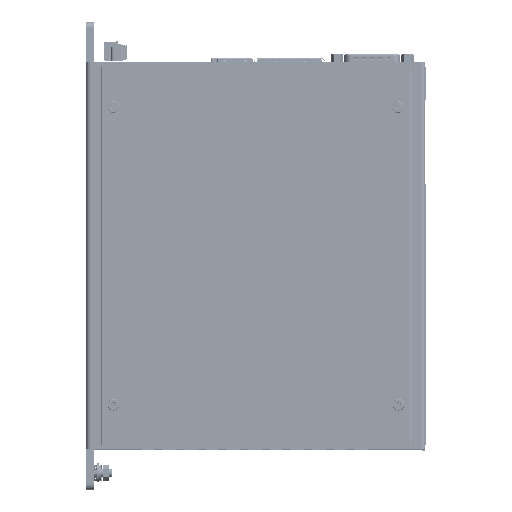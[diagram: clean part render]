
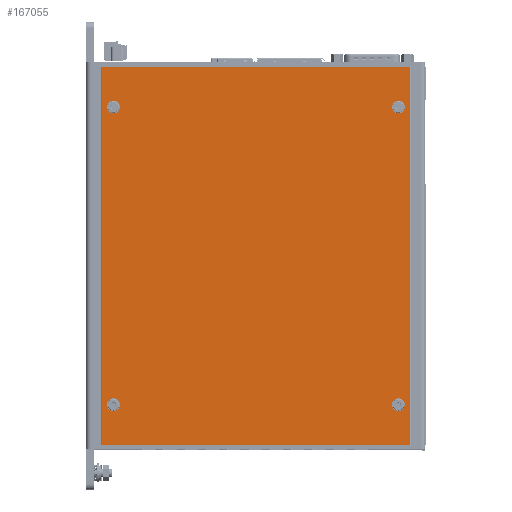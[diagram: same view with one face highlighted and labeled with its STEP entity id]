
A CAD part, top view. The second image highlights one B-rep face of the part: STEP entity #167055.
In plain terms, the highlighted planar face has unit normal (0, 0, 1).
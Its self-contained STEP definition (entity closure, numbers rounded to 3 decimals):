
#166865=DIRECTION('',(0.,-1.,0.));
#166866=VECTOR('',#166865,177.6);
#166867=CARTESIAN_POINT('',(66.3,88.3,46.2));
#166868=LINE('',#166867,#166866);
#166869=DIRECTION('',(-1.,0.,0.));
#166870=VECTOR('',#166869,145.1);
#166871=CARTESIAN_POINT('',(66.3,-89.3,46.2));
#166872=LINE('',#166871,#166870);
#166873=DIRECTION('',(0.,1.,0.));
#166874=VECTOR('',#166873,177.6);
#166875=CARTESIAN_POINT('',(-78.8,-89.3,46.2));
#166876=LINE('',#166875,#166874);
#166877=DIRECTION('',(1.,0.,0.));
#166878=VECTOR('',#166877,145.1);
#166879=CARTESIAN_POINT('',(-78.8,88.3,46.2));
#166880=LINE('',#166879,#166878);
#166881=CARTESIAN_POINT('',(-73.25,69.5,46.2));
#166882=DIRECTION('',(0.,0.,1.));
#166883=DIRECTION('',(0.,1.,0.));
#166884=AXIS2_PLACEMENT_3D('',#166881,#166882,#166883);
#166886=CARTESIAN_POINT('',(-73.25,69.5,46.2));
#166887=DIRECTION('',(0.,0.,1.));
#166888=DIRECTION('',(0.,-1.,0.));
#166889=AXIS2_PLACEMENT_3D('',#166886,#166887,#166888);
#166891=CARTESIAN_POINT('',(-73.25,-70.5,46.2));
#166892=DIRECTION('',(0.,0.,1.));
#166893=DIRECTION('',(0.,1.,0.));
#166894=AXIS2_PLACEMENT_3D('',#166891,#166892,#166893);
#166896=CARTESIAN_POINT('',(-73.25,-70.5,46.2));
#166897=DIRECTION('',(0.,0.,1.));
#166898=DIRECTION('',(0.,-1.,0.));
#166899=AXIS2_PLACEMENT_3D('',#166896,#166897,#166898);
#166901=CARTESIAN_POINT('',(60.75,69.5,46.2));
#166902=DIRECTION('',(0.,0.,1.));
#166903=DIRECTION('',(0.,1.,0.));
#166904=AXIS2_PLACEMENT_3D('',#166901,#166902,#166903);
#166906=CARTESIAN_POINT('',(60.75,69.5,46.2));
#166907=DIRECTION('',(0.,0.,1.));
#166908=DIRECTION('',(0.,-1.,0.));
#166909=AXIS2_PLACEMENT_3D('',#166906,#166907,#166908);
#166911=CARTESIAN_POINT('',(60.75,-70.5,46.2));
#166912=DIRECTION('',(0.,0.,1.));
#166913=DIRECTION('',(0.,1.,0.));
#166914=AXIS2_PLACEMENT_3D('',#166911,#166912,#166913);
#166916=CARTESIAN_POINT('',(60.75,-70.5,46.2));
#166917=DIRECTION('',(0.,0.,1.));
#166918=DIRECTION('',(0.,-1.,0.));
#166919=AXIS2_PLACEMENT_3D('',#166916,#166917,#166918);
#166921=CARTESIAN_POINT('',(66.3,-89.3,46.2));
#166922=CARTESIAN_POINT('',(66.3,88.3,46.2));
#166923=VERTEX_POINT('',#166921);
#166924=VERTEX_POINT('',#166922);
#166925=CARTESIAN_POINT('',(-78.8,-89.3,46.2));
#166926=CARTESIAN_POINT('',(-78.8,88.3,46.2));
#166927=VERTEX_POINT('',#166925);
#166928=VERTEX_POINT('',#166926);
#166929=CARTESIAN_POINT('',(-73.25,66.5,46.2));
#166930=CARTESIAN_POINT('',(-73.25,72.5,46.2));
#166931=VERTEX_POINT('',#166929);
#166932=VERTEX_POINT('',#166930);
#166933=CARTESIAN_POINT('',(-73.25,-73.5,46.2));
#166934=CARTESIAN_POINT('',(-73.25,-67.5,46.2));
#166935=VERTEX_POINT('',#166933);
#166936=VERTEX_POINT('',#166934);
#166937=CARTESIAN_POINT('',(60.75,66.5,46.2));
#166938=CARTESIAN_POINT('',(60.75,72.5,46.2));
#166939=VERTEX_POINT('',#166937);
#166940=VERTEX_POINT('',#166938);
#166941=CARTESIAN_POINT('',(60.75,-73.5,46.2));
#166942=CARTESIAN_POINT('',(60.75,-67.5,46.2));
#166943=VERTEX_POINT('',#166941);
#166944=VERTEX_POINT('',#166942);
#167016=CARTESIAN_POINT('',(66.3,-89.3,46.2));
#167017=DIRECTION('',(0.,0.,1.));
#167018=DIRECTION('',(0.,1.,0.));
#167019=AXIS2_PLACEMENT_3D('',#167016,#167017,#167018);
#167020=PLANE('',#167019);
#167022=ORIENTED_EDGE('',*,*,#167021,.T.);
#167024=ORIENTED_EDGE('',*,*,#167023,.T.);
#167026=ORIENTED_EDGE('',*,*,#167025,.T.);
#167028=ORIENTED_EDGE('',*,*,#167027,.T.);
#167029=EDGE_LOOP('',(#167022,#167024,#167026,#167028));
#167030=FACE_OUTER_BOUND('',#167029,.F.);
#167032=ORIENTED_EDGE('',*,*,#167031,.T.);
#167034=ORIENTED_EDGE('',*,*,#167033,.T.);
#167035=EDGE_LOOP('',(#167032,#167034));
#167036=FACE_BOUND('',#167035,.F.);
#167038=ORIENTED_EDGE('',*,*,#167037,.T.);
#167040=ORIENTED_EDGE('',*,*,#167039,.T.);
#167041=EDGE_LOOP('',(#167038,#167040));
#167042=FACE_BOUND('',#167041,.F.);
#167044=ORIENTED_EDGE('',*,*,#167043,.T.);
#167046=ORIENTED_EDGE('',*,*,#167045,.T.);
#167047=EDGE_LOOP('',(#167044,#167046));
#167048=FACE_BOUND('',#167047,.F.);
#167050=ORIENTED_EDGE('',*,*,#167049,.T.);
#167052=ORIENTED_EDGE('',*,*,#167051,.T.);
#167053=EDGE_LOOP('',(#167050,#167052));
#167054=FACE_BOUND('',#167053,.F.);
#166885=CIRCLE('',#166884,3.);
#166890=CIRCLE('',#166889,3.);
#166895=CIRCLE('',#166894,3.);
#166900=CIRCLE('',#166899,3.);
#166905=CIRCLE('',#166904,3.);
#166910=CIRCLE('',#166909,3.);
#166915=CIRCLE('',#166914,3.);
#166920=CIRCLE('',#166919,3.);
#167021=EDGE_CURVE('',#166924,#166923,#166868,.T.);
#167023=EDGE_CURVE('',#166923,#166927,#166872,.T.);
#167025=EDGE_CURVE('',#166927,#166928,#166876,.T.);
#167027=EDGE_CURVE('',#166928,#166924,#166880,.T.);
#167031=EDGE_CURVE('',#166932,#166931,#166885,.T.);
#167033=EDGE_CURVE('',#166931,#166932,#166890,.T.);
#167037=EDGE_CURVE('',#166936,#166935,#166895,.T.);
#167039=EDGE_CURVE('',#166935,#166936,#166900,.T.);
#167043=EDGE_CURVE('',#166940,#166939,#166905,.T.);
#167045=EDGE_CURVE('',#166939,#166940,#166910,.T.);
#167049=EDGE_CURVE('',#166944,#166943,#166915,.T.);
#167051=EDGE_CURVE('',#166943,#166944,#166920,.T.);
#167055=ADVANCED_FACE('',(#167030,#167036,#167042,#167048,#167054),#167020,.T.);
